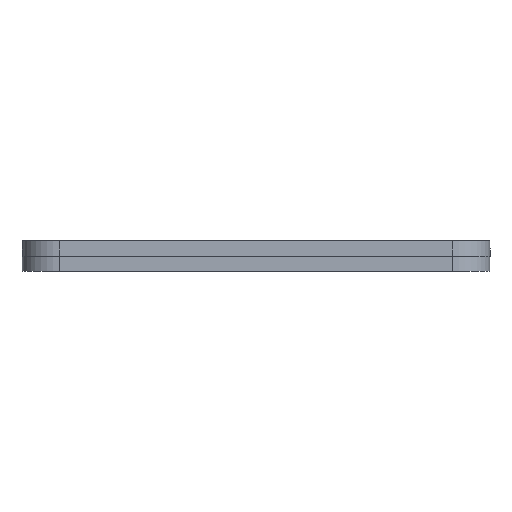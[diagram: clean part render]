
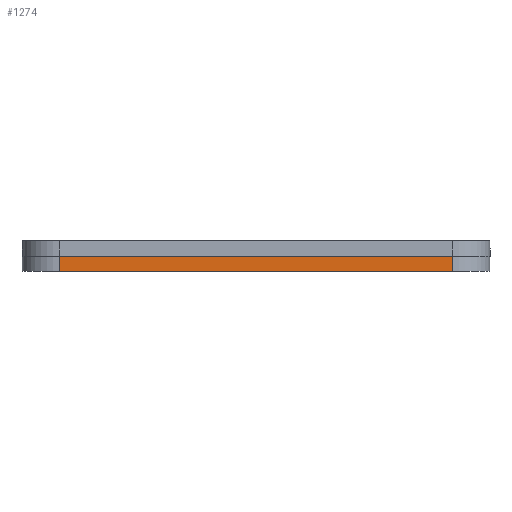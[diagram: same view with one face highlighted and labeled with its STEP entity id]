
A CAD part, left-side view. The second image highlights one B-rep face of the part: STEP entity #1274.
In plain terms, the highlighted planar face has unit normal (-1, 0, 0).
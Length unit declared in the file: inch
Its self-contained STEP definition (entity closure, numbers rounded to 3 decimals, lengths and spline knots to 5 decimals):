
#363 = EDGE_CURVE ( 'NONE', #2398, #2541, #3438, .T. ) ;
#364 = EDGE_CURVE ( 'NONE', #2561, #2544, #3439, .T. ) ;
#373 = EDGE_CURVE ( 'NONE', #2561, #2541, #3619, .T. ) ;
#388 = EDGE_CURVE ( 'NONE', #2544, #2398, #3648, .T. ) ;
#792 = EDGE_LOOP ( 'NONE', ( #1288, #1284, #1277, #2808 ) ) ;
#1274 = ADVANCED_FACE ( 'NONE', ( #10083 ), #10002, .F. ) ;
#1277 = ORIENTED_EDGE ( 'NONE', *, *, #373, .F. ) ;
#1284 = ORIENTED_EDGE ( 'NONE', *, *, #363, .T. ) ;
#1288 = ORIENTED_EDGE ( 'NONE', *, *, #388, .T. ) ;
#1681 = AXIS2_PLACEMENT_3D ( 'NONE', #10010, #10016, #10017 ) ;
#2398 = VERTEX_POINT ( 'NONE', #11116 ) ;
#2541 = VERTEX_POINT ( 'NONE', #11137 ) ;
#2544 = VERTEX_POINT ( 'NONE', #11139 ) ;
#2561 = VERTEX_POINT ( 'NONE', #11153 ) ;
#2808 = ORIENTED_EDGE ( 'NONE', *, *, #364, .T. ) ;
#3438 = LINE ( 'NONE', #3520, #3442 ) ;
#3439 = LINE ( 'NONE', #3522, #3443 ) ;
#3442 = VECTOR ( 'NONE', #3523, 39.37008 ) ;
#3443 = VECTOR ( 'NONE', #3525, 39.37008 ) ;
#3520 = CARTESIAN_POINT ( 'NONE',  ( -1.94, -1.628, 0.125 ) ) ;
#3522 = CARTESIAN_POINT ( 'NONE',  ( -1.94, 1.628, 0.125 ) ) ;
#3523 = DIRECTION ( 'NONE',  ( 0., 0., 1. ) ) ;
#3525 = DIRECTION ( 'NONE',  ( 0., 0., -1. ) ) ;
#3569 = CARTESIAN_POINT ( 'NONE',  ( -1.94, -1.94, 0.125 ) ) ;
#3572 = DIRECTION ( 'NONE',  ( 0., -1., 0. ) ) ;
#3607 = CARTESIAN_POINT ( 'NONE',  ( -1.94, -1.94, 0. ) ) ;
#3608 = DIRECTION ( 'NONE',  ( 0., -1., 0. ) ) ;
#3619 = LINE ( 'NONE', #3569, #3625 ) ;
#3625 = VECTOR ( 'NONE', #3572, 39.37008 ) ;
#3648 = LINE ( 'NONE', #3607, #3649 ) ;
#3649 = VECTOR ( 'NONE', #3608, 39.37008 ) ;
#10002 = PLANE ( 'NONE',  #1681 ) ;
#10010 = CARTESIAN_POINT ( 'NONE',  ( -1.94, -1.94, 0.125 ) ) ;
#10016 = DIRECTION ( 'NONE',  ( 1., 0., 0. ) ) ;
#10017 = DIRECTION ( 'NONE',  ( 0., 0., -1. ) ) ;
#10083 = FACE_OUTER_BOUND ( 'NONE', #792, .T. ) ;
#11116 = CARTESIAN_POINT ( 'NONE',  ( -1.94, -1.628, 0. ) ) ;
#11137 = CARTESIAN_POINT ( 'NONE',  ( -1.94, -1.628, 0.125 ) ) ;
#11139 = CARTESIAN_POINT ( 'NONE',  ( -1.94, 1.628, 0. ) ) ;
#11153 = CARTESIAN_POINT ( 'NONE',  ( -1.94, 1.628, 0.125 ) ) ;
